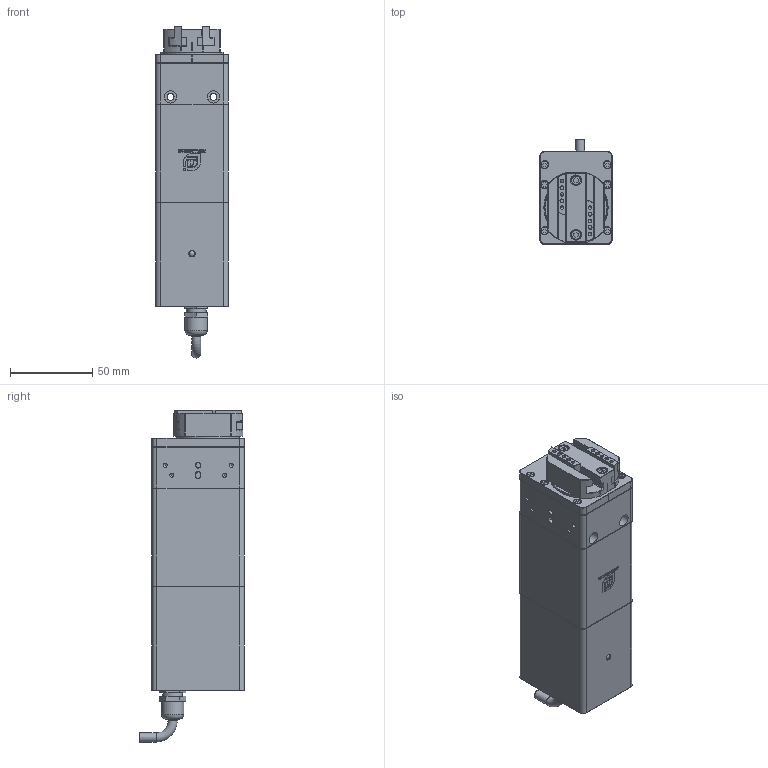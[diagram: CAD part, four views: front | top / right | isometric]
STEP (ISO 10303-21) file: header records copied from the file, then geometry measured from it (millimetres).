
FILE_DESCRIPTION (( 'STEP AP203' ), '1' );
FILE_NAME ('ERG32-050.STEP', '2021-12-24T06:01:22', ( 'User' ), ( 'China' ), 'SwSTEP 2.0', 'SolidWorks 2016', '' );
FILE_SCHEMA (( 'CONFIG_CONTROL_DESIGN' ));
Length unit declared in the file: millimetre
Products named in the file (2): ERG32-050
Bounding box: 44 x 63.5 x 201.25 mm (x, y, z)
Volume: 366246.1 mm3; surface area: 70068.2 mm2
Topology: 16 solids, 23 shells, 1309 faces, 3136 edges, 1992 vertices
Faces by surface type: plane 665, cylinder 224, bspline 215, cone 182, torus 22, sphere 1
Full cylindrical faces by diameter (mm): 1.6 x6, 2 x4, 2.05 x24, 2.5 x20, 2.598 x4, 2.7 x6, 2.9 x8, 3 x5, 3.3 x2, 3.4 x6, 4 x6, 4.2 x2, 4.5 x6, 4.8 x4, 5 x10, 5.5 x4, 5.6 x1, 6.3 x4, 6.5 x2, 7.4 x2, 9 x1, 9.5 x1, 12 x3, 13.5 x1, 15.5 x2, 25 x1, 28.5 x1, 32 x1, 38 x1, 38.5 x1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
Entity records: 41584 total; most frequent: CARTESIAN_POINT 13663, ORIENTED_EDGE 5638, DIRECTION 5105, EDGE_CURVE 2819, VERTEX_POINT 1913, EDGE_LOOP 1716, AXIS2_PLACEMENT_3D 1711, LINE 1683
